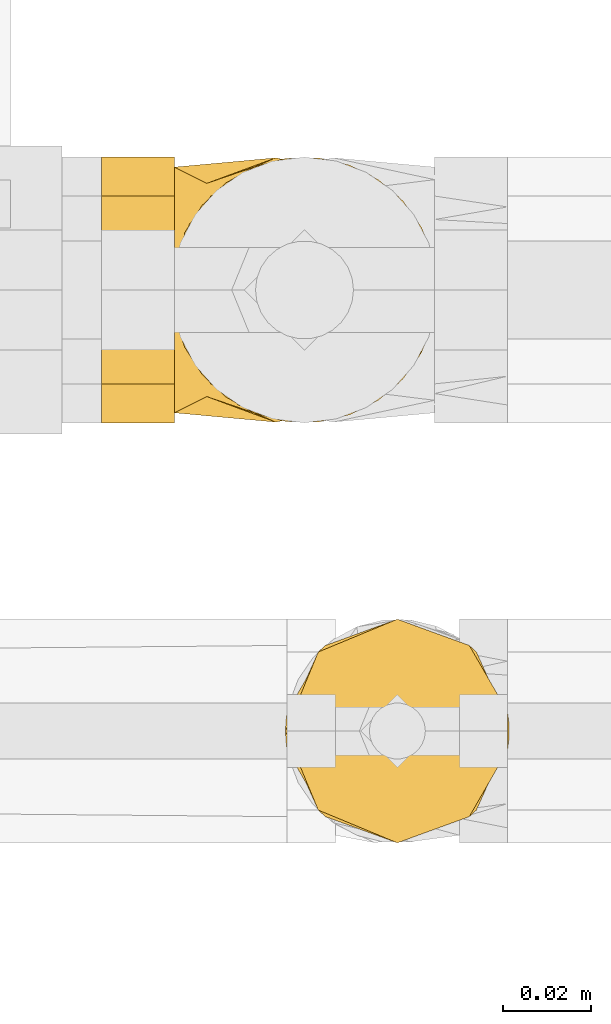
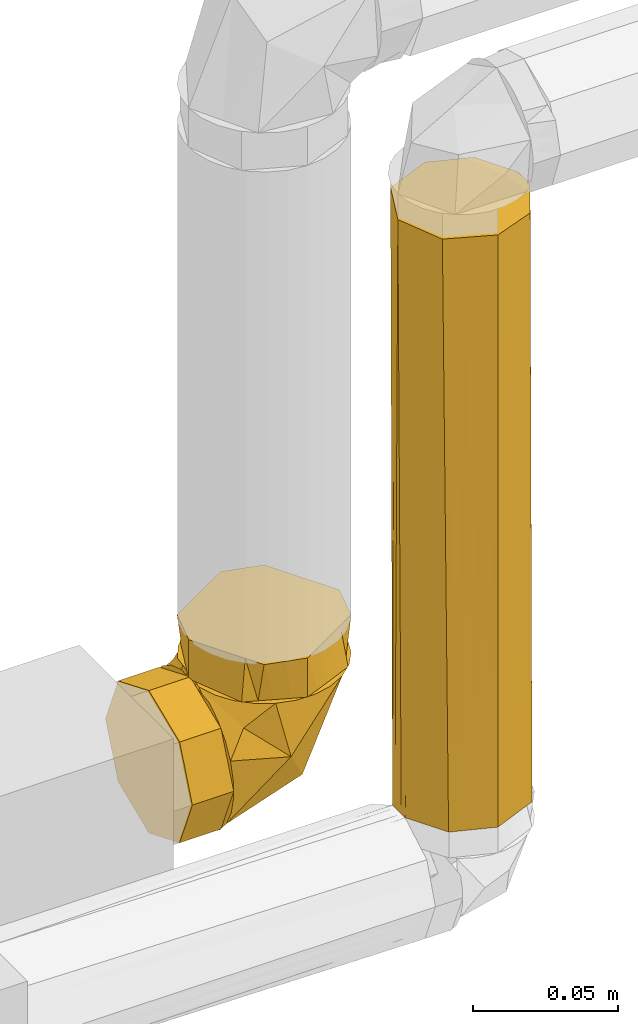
# One storey, part 205 of 652: 2 coverings.
"""IFC2X3 building model written with IfcOpenShell, lengths in millimetres."""

from ifc_helpers import new_model, entity, si_unit, converted_unit, direction, frame, origin, place, context, subcontext, project, spatial, face_set, faceted_brep, surface_model, material, type_object, element, save


model = new_model("IFC2X3")

# Units and contexts
model_context = context("Model", 3, precision=0.01, world=frame((0.0, 0.0, 308426.39999999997)), true_north=direction((6.123233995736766e-17, 1.0)))
plan_context = context("Plan", 3, precision=0.01, world=frame((0.0, 0.0, 308426.39999999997)), true_north=direction((6.123233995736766e-17, 1.0)))
body_context = subcontext(model_context, "Body", "Model", "MODEL_VIEW")
ifc_project = project(units=[si_unit("LENGTHUNIT", "METRE", prefix="MILLI"), si_unit("AREAUNIT", "SQUARE_METRE"), si_unit("VOLUMEUNIT", "CUBIC_METRE"), converted_unit("PLANEANGLEUNIT", "DEGREE", entity("IfcPlaneAngleMeasure", 0.017453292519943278), si_unit("PLANEANGLEUNIT", "RADIAN"), dimensions=[0, 0, 0, 0, 0, 0, 0])], contexts=[model_context, plan_context])

# Site, building, storey
site_placement = place(None, origin())
site = spatial("IfcSite", under=ifc_project, at=site_placement, Name="Default", CompositionType="ELEMENT")
building_placement = place(site_placement, origin())
building = spatial("IfcBuilding", under=site, at=building_placement, CompositionType="ELEMENT")
storey_placement = place(building_placement, frame((0.0, 0.0, 1730.6999999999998)))
storey = spatial("IfcBuildingStorey", under=building, at=storey_placement, Name="EG_Produktion_FFB", CompositionType="ELEMENT", Elevation=1730.6999999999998)

# Coverings
ifc_material = material(Name="Dämmung - Armaflex-Schlauch")
covering_type = type_object("IfcCoveringType", Name="Rohrdämmung außen:Armaflex-Schlauch", PredefinedType="INSULATION")
covering_1_placement = place(storey_placement, frame((38018.46566089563, 69788.05472776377, 4176.628272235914)))
element("IfcCovering", 1, at=covering_1_placement, inside=storey, type_object=covering_type, material=ifc_material, Name="Rohrdämmung außen:Armaflex-Schlauch", ObjectType="Rohrdämmung außen:Armaflex-Schlauch", PredefinedType="INSULATION", context=body_context, shape_type="Brep", body=[
    faceted_brep([(1.9782722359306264, 22.555350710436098, -251.661272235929), (1.9782722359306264, 31.33519376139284, -251.661272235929), (6.308858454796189, 38.84516070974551, -251.66127223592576), (10.63944467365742, 46.355127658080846, -251.66127223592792), (14.71590156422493, 47.84016380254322, -251.66127223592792), (18.792358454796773, 49.32519994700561, -251.66127223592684), (22.868815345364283, 50.81023609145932, -251.66127223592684), (26.945272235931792, 52.29527223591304, -251.66127223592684), (32.54610070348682, 49.975333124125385, -251.66127223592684), (35.907850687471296, 48.58285068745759, -251.66127223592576), (40.38913991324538, 46.72663991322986, -251.66127223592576), (44.8704291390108, 44.87042913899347, -251.66127223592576), (46.72663991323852, 40.389139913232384, -251.66127223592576), (48.58285068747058, 35.90785068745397, -251.66127223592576), (50.439061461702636, 31.426561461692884, -251.66127223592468), (52.29527223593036, 26.94527223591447, -251.66127223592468), (50.439061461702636, 22.46398301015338, -251.66127223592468), (48.58285068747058, 17.982693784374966, -251.66127223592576), (46.72663991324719, 13.501404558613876, -251.66127223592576), (44.8704291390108, 9.020115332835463, -251.66127223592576), (40.389139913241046, 7.1639045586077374, -251.66127223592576), (35.907850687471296, 5.30769378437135, -251.66127223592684), (31.426561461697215, 3.4514830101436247, -251.66127223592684), (26.945272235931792, 1.5952722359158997, -251.66127223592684), (21.21827245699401, 3.681594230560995, -251.66127223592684), (15.491272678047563, 5.767916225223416, -251.66127223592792), (10.63944467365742, 7.535416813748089, -251.66127223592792), (6.308858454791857, 15.045383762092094, -251.66127223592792), (13.501404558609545, 7.163904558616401, -1.5952722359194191), (17.982693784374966, 5.307693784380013, -1.5952722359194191), (22.463983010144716, 3.4514830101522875, -1.5952722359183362), (26.945272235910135, 1.5952722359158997, -1.5952722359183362), (32.67227201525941, 3.681594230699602, -1.5952722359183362), (35.098186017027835, 4.565344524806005, -1.5952722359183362), (39.174642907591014, 6.050380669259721, -1.5952722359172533), (43.2510997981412, 7.535416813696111, -1.5952722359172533), (47.58168601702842, 15.045383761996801, -1.5952722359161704), (51.9122722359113, 22.55535071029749, -1.5952722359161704), (51.9122722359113, 31.335193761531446, -1.5952722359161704), (47.58168601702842, 38.845160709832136, -1.5952722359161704), (43.2510997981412, 46.35512765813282, -1.5952722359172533), (38.39927203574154, 48.12262815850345, -1.5952722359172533), (32.67227213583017, 50.208950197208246, -1.5952722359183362), (26.945272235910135, 52.29527223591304, -1.5952722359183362), (22.463983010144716, 50.43906146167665, -1.5952722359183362), (17.982693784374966, 48.582850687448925, -1.5952722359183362), (13.501404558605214, 46.7266399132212, -1.5952722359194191), (9.02011533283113, 44.87042913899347, -1.5952722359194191), (7.163904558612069, 40.38913991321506, -1.5952722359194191), (5.307693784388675, 35.90785068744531, -1.595272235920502), (3.4514830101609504, 31.426561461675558, -1.595272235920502), (1.5952722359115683, 26.94527223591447, -1.595272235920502), (3.4514830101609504, 22.463983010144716, -1.595272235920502), (5.307693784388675, 17.982693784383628, -1.595272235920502), (7.163904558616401, 13.501404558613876, -1.5952722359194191), (9.02011533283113, 9.020115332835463, -1.5952722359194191), (52.19934072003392, 29.148570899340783, -1.8823407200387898), (52.29527223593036, 26.94527223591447, -1.9782722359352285), (52.19934072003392, 24.741973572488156, -1.8823407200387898), (1.691203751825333, 24.74197357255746, -251.37420375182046), (1.5952722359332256, 26.94527223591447, -251.27827223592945), (1.6912037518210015, 29.148570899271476, -251.37420375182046)], [[[0, 1, 2, 3, 4, 5, 6, 7, 8, 9, 10, 11, 12, 13, 14, 15, 16, 17, 18, 19, 20, 21, 22, 23, 24, 25, 26, 27]], [[28, 29, 30, 31, 32, 33, 34, 35, 36, 37, 38, 39, 40, 41, 42, 43, 44, 45, 46, 47, 48, 49, 50, 51, 52, 53, 54, 55]], [[42, 7, 43]], [[41, 9, 42]], [[42, 9, 8, 7]], [[56, 14, 38]], [[39, 38, 13]], [[40, 10, 41]], [[15, 56, 57]], [[39, 13, 12, 11]], [[14, 13, 38]], [[10, 40, 11]], [[39, 11, 40]], [[10, 9, 41]], [[14, 56, 15]], [[37, 17, 16]], [[34, 33, 32, 21]], [[16, 58, 37]], [[17, 37, 36]], [[34, 21, 20]], [[31, 23, 22]], [[21, 32, 22]], [[20, 35, 34]], [[36, 19, 18, 17]], [[58, 15, 57]], [[19, 36, 35]], [[19, 35, 20]], [[31, 22, 32]], [[15, 58, 16]], [[26, 28, 55]], [[23, 30, 24]], [[26, 25, 28]], [[52, 51, 59]], [[55, 27, 26]], [[30, 23, 31]], [[51, 60, 59]], [[25, 24, 29]], [[0, 52, 59]], [[53, 0, 27]], [[27, 55, 54, 53]], [[0, 53, 52]], [[25, 29, 28]], [[30, 29, 24]], [[50, 49, 1]], [[2, 49, 48, 47]], [[4, 45, 5]], [[51, 61, 60]], [[7, 6, 43]], [[5, 44, 6]], [[43, 6, 44]], [[45, 4, 46]], [[46, 4, 3]], [[49, 2, 1]], [[2, 47, 3]], [[61, 50, 1]], [[50, 61, 51]], [[46, 3, 47]], [[44, 5, 45]], [[60, 61, 1, 0, 59]], [[38, 37, 58, 57, 56]]]),
])
covering_2_placement = place(storey_placement, frame((37978.34343313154, 69883.29222776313, 3868.2922277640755)))
element("IfcCovering", 2, at=covering_2_placement, inside=storey, type_object=covering_type, material=ifc_material, Name="Rohrdämmung außen:Armaflex-Schlauch", ObjectType="Rohrdämmung außen:Armaflex-Schlauch", PredefinedType="INSULATION", context=body_context, shape_type="SurfaceModel", body=[
    surface_model("IfcFaceBasedSurfaceModel", [(16.512750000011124, 37.728331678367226, 61.21227223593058), (16.512750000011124, 44.70572496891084, 58.87053868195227), (16.512750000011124, 50.906653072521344, 54.90616939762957), (16.512750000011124, 55.96068805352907, 49.55598588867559), (16.512750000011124, 59.565914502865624, 43.139594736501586), (16.512750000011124, 61.50696520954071, 36.040295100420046), (16.512750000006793, 61.6678866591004, 28.682181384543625), (16.512750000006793, 60.0390658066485, 21.504808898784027), (16.512750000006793, 56.71780433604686, 14.93693592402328), (16.512750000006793, 51.902506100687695, 9.370910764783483), (16.512750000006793, 45.880824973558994, 5.139233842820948), (16.512750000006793, 39.01248112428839, 2.4946949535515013), (16.512750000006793, 31.70777223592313, 1.5952722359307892), (16.512750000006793, 24.40306334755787, 2.4946949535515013), (16.512750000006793, 17.53471949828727, 5.139233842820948), (16.512750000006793, 11.513038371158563, 9.370910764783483), (16.512750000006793, 6.697740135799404, 14.93693592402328), (16.512750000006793, 3.37647866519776, 21.504808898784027), (16.512750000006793, 1.7476578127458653, 28.68218138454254), (16.512750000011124, 1.9085792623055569, 36.040295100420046), (16.512750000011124, 3.8496299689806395, 43.139594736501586), (16.512750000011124, 7.4548564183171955, 49.55598588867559), (16.512750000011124, 12.508891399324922, 54.90616939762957), (16.512750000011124, 18.70981950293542, 58.87053868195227), (16.512750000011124, 25.687212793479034, 61.21227223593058), (18.8544835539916, 18.70981950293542, 61.21227223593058), (22.818852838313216, 12.508891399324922, 61.21227223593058), (28.169036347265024, 7.4548564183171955, 61.2122722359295), (34.58542749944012, 3.8496299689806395, 61.2122722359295), (41.684727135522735, 1.9085792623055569, 61.21227223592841), (49.04284085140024, 1.7476578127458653, 61.21227223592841), (56.22021333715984, 3.37647866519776, 61.21227223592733), (62.78808631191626, 6.697740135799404, 61.21227223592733), (68.35411147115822, 11.513038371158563, 61.21227223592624), (72.58578839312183, 17.53471949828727, 61.21227223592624), (75.23032728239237, 24.40306334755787, 61.21227223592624), (76.12975000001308, 31.70777223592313, 61.21227223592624), (75.23032728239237, 39.01248112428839, 61.21227223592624), (72.58578839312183, 45.880824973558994, 61.21227223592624), (68.35411147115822, 51.902506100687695, 61.21227223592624), (62.78808631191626, 56.71780433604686, 61.21227223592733), (56.22021333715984, 60.0390658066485, 61.21227223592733), (49.04284085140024, 61.6678866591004, 61.21227223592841), (41.684727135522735, 61.50696520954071, 61.21227223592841), (34.58542749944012, 59.565914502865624, 61.2122722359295), (28.169036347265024, 55.96068805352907, 61.2122722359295), (22.818852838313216, 50.906653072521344, 61.21227223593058), (18.8544835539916, 44.70572496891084, 61.21227223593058), (23.878814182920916, 55.88062379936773, 52.31863649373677), (25.38337350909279, 48.448519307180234, 61.21227968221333), (16.511821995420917, 48.448519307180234, 52.34189088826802), (49.68421579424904, 51.80180299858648, 21.254834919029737), (16.511821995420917, 43.983675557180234, 8.144007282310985), (39.51506906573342, 61.666317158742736, 38.210195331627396), (48.686602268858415, 58.14095094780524, 61.21227968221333), (58.66738840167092, 31.71000612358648, 19.05671327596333), (69.45975290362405, 44.21156862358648, 61.21227968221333), (16.511821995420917, 58.14095094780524, 29.038080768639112), (23.878814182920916, 7.534737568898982, 52.31863649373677), (16.511821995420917, 14.966842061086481, 52.34189088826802), (49.68421579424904, 11.613558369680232, 21.254834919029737), (16.511821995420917, 19.43168581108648, 8.144007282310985), (25.54847971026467, 14.766854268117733, 61.21227968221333), (39.51506906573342, 1.7490442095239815, 38.210195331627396), (69.45975290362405, 19.203792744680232, 61.21227968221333), (16.511821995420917, 5.274410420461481, 29.038080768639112), (48.686602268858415, 5.274410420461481, 61.21227968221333), (0.0, 47.677336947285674, 8.210082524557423), (0.0, 42.35414871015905, 6.005145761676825), (0.0, 37.03096047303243, 3.8002089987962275), (0.0, 31.70777223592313, 1.595272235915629), (0.0, 24.844664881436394, 4.438064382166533), (0.0, 21.06139576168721, 6.005145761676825), (0.0, 15.738207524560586, 8.210082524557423), (0.0, 10.415019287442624, 10.415019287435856), (0.0, 8.21008252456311, 15.738207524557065), (0.0, 6.005145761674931, 21.06139576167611), (0.0, 3.800208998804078, 26.384583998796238), (0.0, 1.5952722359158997, 31.707772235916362), (0.0, 4.438064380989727, 38.570879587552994), (0.0, 6.005145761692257, 42.354148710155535), (0.0, 8.210082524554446, 47.67733694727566), (0.0, 10.415019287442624, 53.00052518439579), (0.0, 15.738207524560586, 55.2054619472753), (0.0, 21.06139576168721, 57.410398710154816), (0.0, 26.38458399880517, 59.615335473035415), (0.0, 31.70777223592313, 61.820272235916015), (0.0, 38.57087958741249, 58.97748009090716), (0.0, 42.35414871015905, 57.4103987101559), (0.0, 47.677336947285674, 55.20546194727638), (0.0, 53.000525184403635, 53.00052518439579), (0.0, 55.205461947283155, 47.67733694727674), (0.0, 57.41039871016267, 42.354148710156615), (0.0, 59.61533547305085, 37.03096047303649), (0.0, 61.8202722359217, 31.707772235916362), (0.0, 58.97748009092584, 24.84466488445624), (0.0, 57.41039871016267, 21.061395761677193), (0.0, 55.205461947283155, 15.738207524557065), (0.0, 53.000525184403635, 10.415019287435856), (16.512750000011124, 1.5952722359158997, 31.707772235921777), (16.512750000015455, 3.800208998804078, 26.384583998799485), (16.512750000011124, 6.005145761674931, 21.061395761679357), (16.512750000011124, 8.21008252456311, 15.738207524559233), (16.512750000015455, 10.415019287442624, 10.41501928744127), (16.512750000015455, 17.98155737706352, 7.280856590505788), (16.512750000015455, 24.844664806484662, 4.43806441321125), (16.51275000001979, 31.70777223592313, 1.5952722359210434), (16.512750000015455, 37.03096047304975, 3.8002089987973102), (16.512750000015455, 42.35414871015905, 6.005145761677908), (16.512750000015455, 47.677336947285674, 8.210082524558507), (16.512750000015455, 53.000525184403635, 10.41501928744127), (16.512750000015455, 56.13468794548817, 17.981557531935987), (16.512750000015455, 58.9774800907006, 24.844664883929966), (16.512750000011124, 61.8202722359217, 31.707772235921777), (16.512750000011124, 59.615335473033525, 37.03096047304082), (16.512750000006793, 57.41039871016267, 42.35414871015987), (16.512750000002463, 55.205461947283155, 47.67733694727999), (16.512750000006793, 53.000525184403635, 53.000525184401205), (16.512750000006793, 45.43398694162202, 56.134687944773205), (16.512750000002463, 38.57087958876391, 58.977480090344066), (16.512750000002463, 31.70777223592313, 61.82027223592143), (16.512750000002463, 26.38458399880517, 59.6153354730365), (16.51274999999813, 21.06139576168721, 57.41039871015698), (16.512750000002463, 15.738207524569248, 55.20546194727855), (16.512750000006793, 10.415019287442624, 53.000525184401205), (16.512750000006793, 7.280856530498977, 45.433986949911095), (16.512750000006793, 4.438064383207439, 38.570879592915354), (76.12975000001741, 31.70777223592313, 77.72502223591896), (72.36568750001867, 38.22731972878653, 77.72502223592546), (68.6016250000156, 44.74686722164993, 77.72502223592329), (64.83756250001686, 51.26641471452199, 77.72502223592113), (61.07350000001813, 57.78596220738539, 77.72502223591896), (53.54537500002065, 59.803117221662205, 77.72502223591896), (46.01725000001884, 61.8202722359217, 77.72502223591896), (39.49770250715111, 58.05620973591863, 77.72502223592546), (32.978155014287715, 54.292147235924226, 77.72502223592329), (26.458607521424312, 50.528084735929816, 77.72502223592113), (19.939060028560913, 46.764022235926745, 77.72502223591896), (17.921905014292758, 39.23589723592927, 77.72502223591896), (15.904750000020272, 31.70777223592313, 77.72502223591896), (19.668812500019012, 25.18822474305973, 77.72502223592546), (23.43287500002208, 18.668677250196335, 77.72502223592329), (27.19693750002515, 12.149129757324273, 77.72502223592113), (30.961000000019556, 5.629582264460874, 77.72502223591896), (38.48912500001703, 3.6124272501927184, 77.72502223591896), (46.01725000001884, 1.5952722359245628, 77.72502223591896), (52.536797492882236, 5.35933473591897, 77.72502223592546), (59.05634498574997, 9.12339723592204, 77.72502223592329), (65.57589247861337, 12.887459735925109, 77.72502223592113), (72.09543997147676, 16.651522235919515, 77.72502223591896), (74.11259498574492, 24.179647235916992, 77.72502223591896), (76.12975000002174, 31.70777223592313, 61.21227223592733), (73.9248132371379, 26.38458399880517, 61.21227223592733), (71.71987647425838, 21.06139576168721, 61.21227223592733), (69.51493971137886, 15.738207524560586, 61.21227223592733), (67.31000294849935, 10.415019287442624, 61.21227223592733), (61.986814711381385, 8.21008252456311, 61.21227223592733), (56.6636264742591, 6.005145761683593, 61.21227223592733), (51.3404382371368, 3.8002089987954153, 61.21227223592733), (46.01725000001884, 1.5952722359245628, 61.21227223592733), (40.694061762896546, 3.800208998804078, 61.21227223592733), (35.370873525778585, 6.005145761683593, 61.21227223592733), (30.047685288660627, 8.21008252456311, 61.21227223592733), (24.724497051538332, 10.415019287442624, 61.21227223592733), (22.51956028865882, 15.738207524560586, 61.21227223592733), (20.314623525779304, 21.06139576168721, 61.21227223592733), (18.109686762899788, 26.38458399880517, 61.21227223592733), (15.904750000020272, 31.70777223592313, 61.21227223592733), (18.10968676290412, 37.03096047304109, 61.21227223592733), (20.314623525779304, 42.35414871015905, 61.21227223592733), (22.51956028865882, 47.67733694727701, 61.21227223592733), (24.724497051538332, 53.000525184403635, 61.21227223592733), (30.047685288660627, 55.205461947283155, 61.21227223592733), (35.370873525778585, 57.41039871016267, 61.21227223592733), (40.694061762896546, 59.61533547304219, 61.21227223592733), (46.01725000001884, 61.8202722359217, 61.21227223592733), (51.340438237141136, 59.61533547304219, 61.21227223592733), (56.6636264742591, 57.41039871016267, 61.21227223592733), (61.98681471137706, 55.205461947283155, 61.21227223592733), (67.31000294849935, 53.000525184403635, 61.21227223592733), (69.51493971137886, 47.677336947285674, 61.21227223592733), (71.71987647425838, 42.35414871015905, 61.21227223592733), (73.92481323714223, 37.03096047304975, 61.21227223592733)], [face_set([[[0, 1, 2, 3, 4, 5, 6, 7, 8, 9, 10, 11, 12, 13, 14, 15, 16, 17, 18, 19, 20, 21, 22, 23]], [[24, 25, 26, 27, 28, 29, 30, 31, 32, 33, 34, 35, 36, 37, 38, 39, 40, 41, 42, 43, 44, 45, 46, 47]], [[48, 0, 49]], [[50, 48, 4]], [[51, 52, 8]], [[51, 8, 53]], [[53, 44, 54, 40]], [[48, 49, 44]], [[40, 51, 53]], [[55, 51, 56]], [[57, 4, 53]], [[56, 36, 55]], [[55, 52, 51]], [[48, 50, 0]], [[55, 12, 52]], [[4, 48, 53]], [[53, 8, 57]], [[44, 53, 48]], [[51, 40, 56]], [[58, 59, 20]], [[60, 61, 55]], [[24, 58, 62]], [[58, 20, 63]], [[16, 60, 63]], [[55, 64, 60]], [[24, 59, 58]], [[65, 16, 63]], [[28, 58, 63]], [[58, 28, 62]], [[61, 60, 16]], [[61, 12, 55]], [[63, 32, 66, 28]], [[63, 20, 65]], [[32, 63, 60]], [[64, 55, 36]], [[64, 32, 60]]]), face_set([[[67, 68, 69, 70, 71, 72, 73, 74, 75, 76, 77, 78, 79, 80, 81, 82, 83, 84, 85, 86, 87, 88, 89, 90, 91, 92, 93, 94, 95, 96, 97, 98]], [[99, 100, 101, 102, 103, 104, 105, 106, 107, 108, 109, 110, 111, 112, 113, 114, 115, 116, 117, 118, 119, 120, 121, 122, 123, 124, 125, 126]], [[105, 104, 103, 74, 73, 72, 71, 70, 106]], [[74, 103, 102, 101, 100, 99, 78, 77, 76, 75]], [[126, 125, 124, 82, 81, 80, 79, 78, 99]], [[82, 124, 123, 122, 121, 120, 86, 85, 84, 83]], [[119, 118, 117, 90, 89, 88, 87, 86, 120]], [[90, 117, 116, 115, 114, 113, 94, 93, 92, 91]], [[112, 111, 110, 98, 97, 96, 95, 94, 113]], [[98, 110, 109, 108, 107, 106, 70, 69, 68, 67]]]), face_set([[[127, 128, 129, 130, 131, 132, 133, 134, 135, 136, 137, 138, 139, 140, 141, 142, 143, 144, 145, 146, 147, 148, 149, 150]], [[151, 152, 153, 154, 155, 156, 157, 158, 159, 160, 161, 162, 163, 164, 165, 166, 167, 168, 169, 170, 171, 172, 173, 174, 175, 176, 177, 178, 179, 180, 181, 182]], [[170, 136, 171]], [[133, 174, 134]], [[174, 173, 134]], [[138, 169, 168]], [[168, 167, 139]], [[136, 170, 137]], [[135, 173, 172]], [[133, 175, 174]], [[173, 135, 134]], [[139, 138, 168]], [[172, 171, 136]], [[170, 169, 137]], [[138, 137, 169]], [[135, 172, 136]], [[178, 130, 179]], [[127, 182, 128]], [[182, 181, 128]], [[132, 177, 176]], [[176, 175, 133]], [[130, 178, 131]], [[129, 181, 180]], [[127, 151, 182]], [[181, 129, 128]], [[133, 132, 176]], [[180, 179, 130]], [[178, 177, 131]], [[132, 131, 177]], [[129, 180, 130]], [[154, 148, 155]], [[145, 158, 146]], [[158, 157, 146]], [[150, 153, 152]], [[152, 151, 127]], [[148, 154, 149]], [[147, 157, 156]], [[145, 159, 158]], [[157, 147, 146]], [[127, 150, 152]], [[156, 155, 148]], [[154, 153, 149]], [[150, 149, 153]], [[147, 156, 148]], [[162, 142, 163]], [[139, 166, 140]], [[166, 165, 140]], [[144, 161, 160]], [[160, 159, 145]], [[142, 162, 143]], [[141, 165, 164]], [[139, 167, 166]], [[165, 141, 140]], [[145, 144, 160]], [[164, 163, 142]], [[162, 161, 143]], [[144, 143, 161]], [[141, 164, 142]]])]),
])

save(model, "model.ifc")
